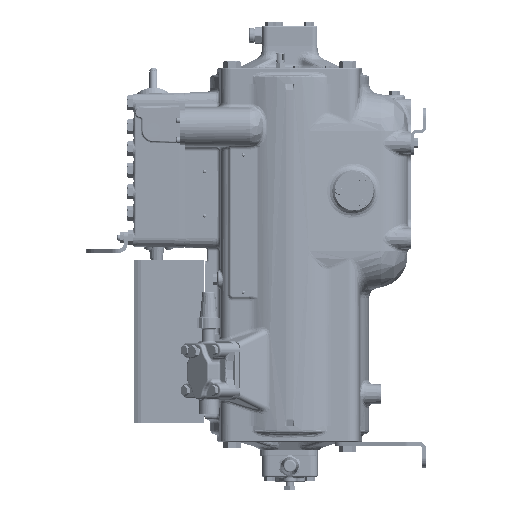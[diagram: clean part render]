
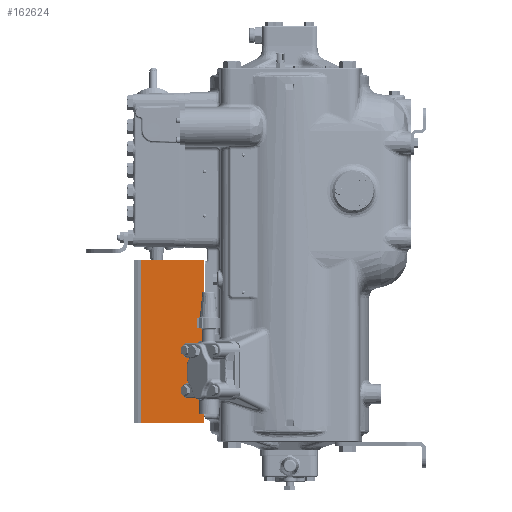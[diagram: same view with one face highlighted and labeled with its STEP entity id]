
A CAD part, left-side view. The second image highlights one B-rep face of the part: STEP entity #162624.
In plain terms, the highlighted planar face has unit normal (-1, 0, 0).
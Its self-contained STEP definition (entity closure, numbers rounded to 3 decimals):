
#52180=DIRECTION('',(0.,1.,0.));
#52181=VECTOR('',#52180,99.751);
#52182=CARTESIAN_POINT('',(-67.9,134.575,-464.989));
#52183=LINE('',#52182,#52181);
#52240=DIRECTION('',(0.,-1.,0.));
#52241=VECTOR('',#52240,0.16);
#52242=CARTESIAN_POINT('',(-67.9,234.326,-456.65));
#52243=LINE('',#52242,#52241);
#52244=DIRECTION('',(0.,0.,-1.));
#52245=VECTOR('',#52244,241.3);
#52246=CARTESIAN_POINT('',(-67.9,234.166,-215.35));
#52247=LINE('',#52246,#52245);
#52248=DIRECTION('',(0.,-1.,0.));
#52249=VECTOR('',#52248,0.16);
#52250=CARTESIAN_POINT('',(-67.9,234.326,-215.35));
#52251=LINE('',#52250,#52249);
#52252=DIRECTION('',(0.,0.,-1.));
#52253=VECTOR('',#52252,5.601);
#52254=CARTESIAN_POINT('',(-67.9,234.326,-209.749));
#52255=LINE('',#52254,#52253);
#52256=DIRECTION('',(0.,1.,0.));
#52257=VECTOR('',#52256,99.751);
#52258=CARTESIAN_POINT('',(-67.9,134.575,-209.749));
#52259=LINE('',#52258,#52257);
#52260=DIRECTION('',(0.,0.,-1.));
#52261=VECTOR('',#52260,8.339);
#52262=CARTESIAN_POINT('',(-67.9,234.326,-456.65));
#52263=LINE('',#52262,#52261);
#52264=DIRECTION('',(0.,0.,-1.));
#52265=VECTOR('',#52264,255.24);
#52266=CARTESIAN_POINT('',(-67.9,134.575,-209.749));
#52267=LINE('',#52266,#52265);
#58054=CARTESIAN_POINT('',(-67.9,134.575,-464.989));
#58055=VERTEX_POINT('',#58054);
#58056=CARTESIAN_POINT('',(-67.9,234.326,-464.989));
#58057=VERTEX_POINT('',#58056);
#58068=CARTESIAN_POINT('',(-67.9,134.575,-209.749));
#58069=VERTEX_POINT('',#58068);
#58070=CARTESIAN_POINT('',(-67.9,234.326,-209.749));
#58071=VERTEX_POINT('',#58070);
#67165=CARTESIAN_POINT('',(-67.9,234.326,-456.65));
#67166=CARTESIAN_POINT('',(-67.9,234.166,-456.65));
#67167=VERTEX_POINT('',#67165);
#67168=VERTEX_POINT('',#67166);
#67169=CARTESIAN_POINT('',(-67.9,234.326,-215.35));
#67170=CARTESIAN_POINT('',(-67.9,234.166,-215.35));
#67171=VERTEX_POINT('',#67169);
#67172=VERTEX_POINT('',#67170);
#162604=CARTESIAN_POINT('',(-67.9,234.326,-464.989));
#162605=DIRECTION('',(-1.,0.,0.));
#162606=DIRECTION('',(0.,-1.,0.));
#162607=AXIS2_PLACEMENT_3D('',#162604,#162605,#162606);
#162608=PLANE('',#162607);
#162610=ORIENTED_EDGE('',*,*,#162609,.T.);
#162612=ORIENTED_EDGE('',*,*,#162611,.F.);
#162614=ORIENTED_EDGE('',*,*,#162613,.F.);
#162615=ORIENTED_EDGE('',*,*,#162595,.F.);
#162617=ORIENTED_EDGE('',*,*,#162616,.F.);
#162619=ORIENTED_EDGE('',*,*,#162618,.T.);
#162620=ORIENTED_EDGE('',*,*,#162520,.T.);
#162621=ORIENTED_EDGE('',*,*,#162589,.F.);
#162622=EDGE_LOOP('',(#162610,#162612,#162614,#162615,#162617,#162619,#162620,
#162621));
#162623=FACE_OUTER_BOUND('',#162622,.F.);
#162624=ADVANCED_FACE('',(#162623),#162608,.T.);
#162520=EDGE_CURVE('',#58055,#58057,#52183,.T.);
#162589=EDGE_CURVE('',#67167,#58057,#52263,.T.);
#162595=EDGE_CURVE('',#58071,#67171,#52255,.T.);
#162609=EDGE_CURVE('',#67167,#67168,#52243,.T.);
#162611=EDGE_CURVE('',#67172,#67168,#52247,.T.);
#162613=EDGE_CURVE('',#67171,#67172,#52251,.T.);
#162616=EDGE_CURVE('',#58069,#58071,#52259,.T.);
#162618=EDGE_CURVE('',#58069,#58055,#52267,.T.);
